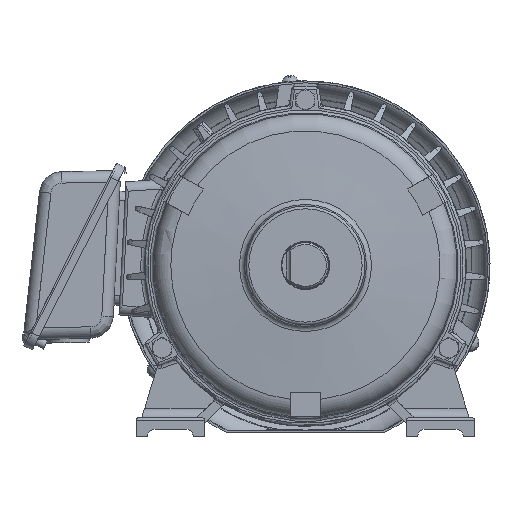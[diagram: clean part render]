
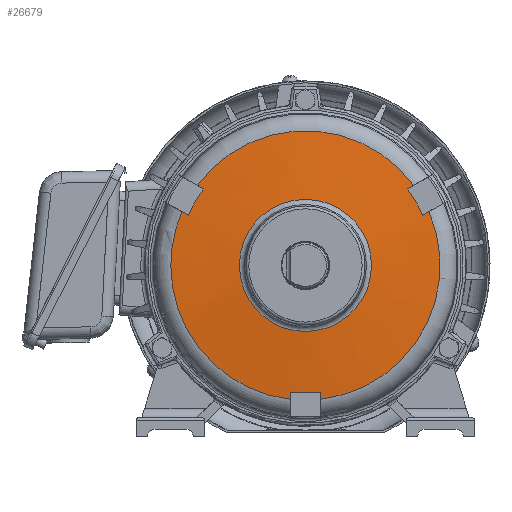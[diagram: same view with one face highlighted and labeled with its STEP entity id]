
A CAD part, front view. The second image highlights one B-rep face of the part: STEP entity #26679.
In plain terms, the highlighted conical face has half-angle 85.03 degrees and reference radius 78.5 mm.
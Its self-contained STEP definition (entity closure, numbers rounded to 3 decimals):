
#272=CONICAL_SURFACE('',#28485,78.5,1.484);
#1034=B_SPLINE_CURVE_WITH_KNOTS('',3,(#45122,#45123,#45124,#45125),
 .UNSPECIFIED.,.F.,.F.,(4,4),(0.,1.),.PIECEWISE_BEZIER_KNOTS.);
#1035=B_SPLINE_CURVE_WITH_KNOTS('',3,(#45130,#45131,#45132,#45133),
 .UNSPECIFIED.,.F.,.F.,(4,4),(0.,1.),.PIECEWISE_BEZIER_KNOTS.);
#1036=B_SPLINE_CURVE_WITH_KNOTS('',3,(#45137,#45138,#45139,#45140),
 .UNSPECIFIED.,.F.,.F.,(4,4),(0.,1.),.PIECEWISE_BEZIER_KNOTS.);
#1037=B_SPLINE_CURVE_WITH_KNOTS('',3,(#45144,#45145,#45146,#45147),
 .UNSPECIFIED.,.F.,.F.,(4,4),(0.,1.),.PIECEWISE_BEZIER_KNOTS.);
#1038=B_SPLINE_CURVE_WITH_KNOTS('',3,(#45151,#45152,#45153,#45154),
 .UNSPECIFIED.,.F.,.F.,(4,4),(0.,1.),.PIECEWISE_BEZIER_KNOTS.);
#1039=B_SPLINE_CURVE_WITH_KNOTS('',3,(#45158,#45159,#45160,#45161),
 .UNSPECIFIED.,.F.,.F.,(4,4),(0.,1.),.PIECEWISE_BEZIER_KNOTS.);
#2246=CIRCLE('',#28486,34.709);
#2247=CIRCLE('',#28487,70.777);
#2248=CIRCLE('',#28488,67.);
#2249=CIRCLE('',#28489,70.777);
#2250=CIRCLE('',#28490,67.);
#2251=CIRCLE('',#28491,70.777);
#2252=CIRCLE('',#28492,67.);
#5062=ORIENTED_EDGE('',*,*,#11256,.T.);
#5063=ORIENTED_EDGE('',*,*,#11257,.F.);
#5064=ORIENTED_EDGE('',*,*,#11258,.T.);
#5065=ORIENTED_EDGE('',*,*,#11259,.F.);
#5066=ORIENTED_EDGE('',*,*,#11260,.F.);
#5067=ORIENTED_EDGE('',*,*,#11261,.F.);
#5068=ORIENTED_EDGE('',*,*,#11262,.T.);
#5069=ORIENTED_EDGE('',*,*,#11263,.F.);
#5070=ORIENTED_EDGE('',*,*,#11264,.F.);
#5071=ORIENTED_EDGE('',*,*,#11265,.F.);
#5072=ORIENTED_EDGE('',*,*,#11266,.T.);
#5073=ORIENTED_EDGE('',*,*,#11267,.F.);
#5074=ORIENTED_EDGE('',*,*,#11268,.F.);
#11256=EDGE_CURVE('',#14524,#14524,#2246,.T.);
#11257=EDGE_CURVE('',#14525,#14526,#1034,.T.);
#11258=EDGE_CURVE('',#14525,#14527,#2247,.T.);
#11259=EDGE_CURVE('',#14528,#14527,#1035,.T.);
#11260=EDGE_CURVE('',#14529,#14528,#2248,.T.);
#11261=EDGE_CURVE('',#14530,#14529,#1036,.T.);
#11262=EDGE_CURVE('',#14530,#14531,#2249,.T.);
#11263=EDGE_CURVE('',#14532,#14531,#1037,.T.);
#11264=EDGE_CURVE('',#14533,#14532,#2250,.T.);
#11265=EDGE_CURVE('',#14534,#14533,#1038,.T.);
#11266=EDGE_CURVE('',#14534,#14535,#2251,.T.);
#11267=EDGE_CURVE('',#14536,#14535,#1039,.T.);
#11268=EDGE_CURVE('',#14526,#14536,#2252,.T.);
#14524=VERTEX_POINT('',#45121);
#14525=VERTEX_POINT('',#45126);
#14526=VERTEX_POINT('',#45127);
#14527=VERTEX_POINT('',#45129);
#14528=VERTEX_POINT('',#45134);
#14529=VERTEX_POINT('',#45136);
#14530=VERTEX_POINT('',#45141);
#14531=VERTEX_POINT('',#45143);
#14532=VERTEX_POINT('',#45148);
#14533=VERTEX_POINT('',#45150);
#14534=VERTEX_POINT('',#45155);
#14535=VERTEX_POINT('',#45157);
#14536=VERTEX_POINT('',#45162);
#19327=EDGE_LOOP('',(#5062));
#19328=EDGE_LOOP('',(#5063,#5064,#5065,#5066,#5067,#5068,#5069,#5070,#5071,
#5072,#5073,#5074));
#21077=FACE_BOUND('',#19327,.T.);
#21078=FACE_BOUND('',#19328,.T.);
#26679=ADVANCED_FACE('',(#21077,#21078),#272,.T.);
#28485=AXIS2_PLACEMENT_3D('',#45119,#32211,#32212);
#28486=AXIS2_PLACEMENT_3D('',#45120,#32213,#32214);
#28487=AXIS2_PLACEMENT_3D('',#45128,#32215,#32216);
#28488=AXIS2_PLACEMENT_3D('',#45135,#32217,#32218);
#28489=AXIS2_PLACEMENT_3D('',#45142,#32219,#32220);
#28490=AXIS2_PLACEMENT_3D('',#45149,#32221,#32222);
#28491=AXIS2_PLACEMENT_3D('',#45156,#32223,#32224);
#28492=AXIS2_PLACEMENT_3D('',#45163,#32225,#32226);
#32211=DIRECTION('',(0.,1.,0.));
#32212=DIRECTION('',(-1.,0.,0.));
#32213=DIRECTION('',(0.,1.,0.));
#32214=DIRECTION('',(-1.,0.,0.));
#32215=DIRECTION('',(0.,-1.,0.));
#32216=DIRECTION('',(1.,0.,0.));
#32217=DIRECTION('',(0.,1.,0.));
#32218=DIRECTION('',(-1.,0.,0.));
#32219=DIRECTION('',(0.,-1.,0.));
#32220=DIRECTION('',(1.,0.,0.));
#32221=DIRECTION('',(0.,1.,0.));
#32222=DIRECTION('',(-1.,0.,0.));
#32223=DIRECTION('',(0.,-1.,0.));
#32224=DIRECTION('',(1.,0.,0.));
#32225=DIRECTION('',(0.,1.,0.));
#32226=DIRECTION('',(-1.,0.,0.));
#45119=CARTESIAN_POINT('',(0.,11.,0.));
#45120=CARTESIAN_POINT('',(0.,7.192,0.));
#45121=CARTESIAN_POINT('',(-34.709,7.192,0.));
#45122=CARTESIAN_POINT('',(8.,10.328,-70.323));
#45123=CARTESIAN_POINT('',(8.,10.219,-69.056));
#45124=CARTESIAN_POINT('',(8.,10.109,-67.788));
#45125=CARTESIAN_POINT('',(8.,10.,-66.521));
#45126=CARTESIAN_POINT('',(8.,10.328,-70.323));
#45127=CARTESIAN_POINT('',(8.,10.,-66.521));
#45128=CARTESIAN_POINT('',(0.,10.328,0.));
#45129=CARTESIAN_POINT('',(64.902,10.328,28.233));
#45130=CARTESIAN_POINT('',(61.609,10.,26.332));
#45131=CARTESIAN_POINT('',(62.706,10.109,26.966));
#45132=CARTESIAN_POINT('',(63.804,10.219,27.6));
#45133=CARTESIAN_POINT('',(64.902,10.328,28.233));
#45134=CARTESIAN_POINT('',(61.609,10.,26.332));
#45135=CARTESIAN_POINT('',(0.,10.,0.));
#45136=CARTESIAN_POINT('',(53.609,10.,40.189));
#45137=CARTESIAN_POINT('',(56.902,10.328,42.09));
#45138=CARTESIAN_POINT('',(55.804,10.219,41.456));
#45139=CARTESIAN_POINT('',(54.706,10.109,40.822));
#45140=CARTESIAN_POINT('',(53.609,10.,40.189));
#45141=CARTESIAN_POINT('',(56.902,10.328,42.09));
#45142=CARTESIAN_POINT('',(0.,10.328,0.));
#45143=CARTESIAN_POINT('',(-56.902,10.328,42.09));
#45144=CARTESIAN_POINT('',(-53.609,10.,40.189));
#45145=CARTESIAN_POINT('',(-54.706,10.109,40.822));
#45146=CARTESIAN_POINT('',(-55.804,10.219,41.456));
#45147=CARTESIAN_POINT('',(-56.902,10.328,42.09));
#45148=CARTESIAN_POINT('',(-53.609,10.,40.189));
#45149=CARTESIAN_POINT('',(0.,10.,0.));
#45150=CARTESIAN_POINT('',(-61.609,10.,26.332));
#45151=CARTESIAN_POINT('',(-64.902,10.328,28.233));
#45152=CARTESIAN_POINT('',(-63.804,10.219,27.6));
#45153=CARTESIAN_POINT('',(-62.706,10.109,26.966));
#45154=CARTESIAN_POINT('',(-61.609,10.,26.332));
#45155=CARTESIAN_POINT('',(-64.902,10.328,28.233));
#45156=CARTESIAN_POINT('',(0.,10.328,0.));
#45157=CARTESIAN_POINT('',(-8.,10.328,-70.323));
#45158=CARTESIAN_POINT('',(-8.,10.,-66.521));
#45159=CARTESIAN_POINT('',(-8.,10.109,-67.788));
#45160=CARTESIAN_POINT('',(-8.,10.219,-69.056));
#45161=CARTESIAN_POINT('',(-8.,10.328,-70.323));
#45162=CARTESIAN_POINT('',(-8.,10.,-66.521));
#45163=CARTESIAN_POINT('',(0.,10.,0.));
